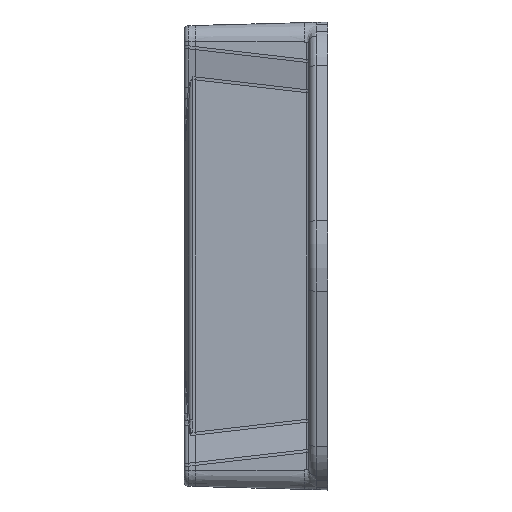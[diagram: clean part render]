
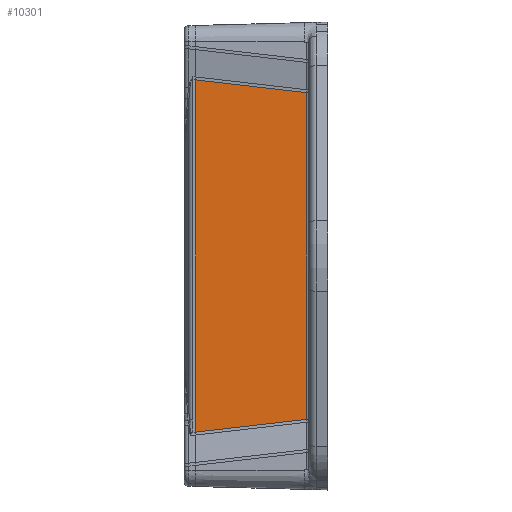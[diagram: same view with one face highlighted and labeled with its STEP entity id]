
A CAD part, left-side view. The second image highlights one B-rep face of the part: STEP entity #10301.
In plain terms, the highlighted planar face has unit normal (-1, 0.026, 0).
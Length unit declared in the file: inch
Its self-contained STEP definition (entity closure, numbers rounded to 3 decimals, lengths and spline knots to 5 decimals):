
#1251 = EDGE_LOOP ( 'NONE', ( #6745, #6746, #6633, #6635 ) ) ;
#6633 = ORIENTED_EDGE ( 'NONE', *, *, #13828, .T. ) ;
#6635 = ORIENTED_EDGE ( 'NONE', *, *, #13853, .F. ) ;
#6745 = ORIENTED_EDGE ( 'NONE', *, *, #13851, .T. ) ;
#6746 = ORIENTED_EDGE ( 'NONE', *, *, #13848, .T. ) ;
#7265 = FACE_OUTER_BOUND ( 'NONE', #1251, .T. ) ;
#10301 = ADVANCED_FACE ( 'NONE', ( #7265 ), #28617, .T. ) ;
#10737 = CARTESIAN_POINT ( 'NONE',  ( -1.52497, 0.00112, 1.1653 ) ) ;
#10744 = DIRECTION ( 'NONE',  ( 0.026, 0.993, 0.114 ) ) ;
#10770 = CARTESIAN_POINT ( 'NONE',  ( -1.54424, -0.73478, -1.175 ) ) ;
#10771 = DIRECTION ( 'NONE',  ( 0., 0., 1. ) ) ;
#10772 = CARTESIAN_POINT ( 'NONE',  ( -1.54461, -0.74888, -1.07888 ) ) ;
#10773 = DIRECTION ( 'NONE',  ( -0.026, -0.993, 0.114 ) ) ;
#10774 = CARTESIAN_POINT ( 'NONE',  ( -1.525, 0., -1.175 ) ) ;
#10775 = DIRECTION ( 'NONE',  ( 0., 0., 1. ) ) ;
#12129 = VERTEX_POINT ( 'NONE', #15535 ) ;
#12130 = VERTEX_POINT ( 'NONE', #15536 ) ;
#12131 = VERTEX_POINT ( 'NONE', #15537 ) ;
#12132 = VERTEX_POINT ( 'NONE', #15538 ) ;
#12886 = VECTOR ( 'NONE', #10771, 39.37008 ) ;
#12900 = LINE ( 'NONE', #10737, #12911 ) ;
#12911 = VECTOR ( 'NONE', #10744, 39.37008 ) ;
#12933 = LINE ( 'NONE', #10770, #12886 ) ;
#12947 = LINE ( 'NONE', #10772, #12950 ) ;
#12950 = VECTOR ( 'NONE', #10773, 39.37008 ) ;
#12953 = LINE ( 'NONE', #10774, #12956 ) ;
#12956 = VECTOR ( 'NONE', #10775, 39.37008 ) ;
#13828 = EDGE_CURVE ( 'NONE', #12131, #12132, #12900, .T. ) ;
#13848 = EDGE_CURVE ( 'NONE', #12130, #12131, #12933, .T. ) ;
#13851 = EDGE_CURVE ( 'NONE', #12129, #12130, #12947, .T. ) ;
#13853 = EDGE_CURVE ( 'NONE', #12129, #12132, #12953, .T. ) ;
#15535 = CARTESIAN_POINT ( 'NONE',  ( -1.525, 0., -1.16517 ) ) ;
#15536 = CARTESIAN_POINT ( 'NONE',  ( -1.54424, -0.73478, -1.0805 ) ) ;
#15537 = CARTESIAN_POINT ( 'NONE',  ( -1.54424, -0.73478, 1.0805 ) ) ;
#15538 = CARTESIAN_POINT ( 'NONE',  ( -1.525, 0., 1.16517 ) ) ;
#16609 = AXIS2_PLACEMENT_3D ( 'NONE', #28614, #28608, #28607 ) ;
#28607 = DIRECTION ( 'NONE',  ( -0.026, -1., 0. ) ) ;
#28608 = DIRECTION ( 'NONE',  ( -1., 0.026, 0. ) ) ;
#28614 = CARTESIAN_POINT ( 'NONE',  ( -1.525, 0., -1.175 ) ) ;
#28617 = PLANE ( 'NONE',  #16609 ) ;
